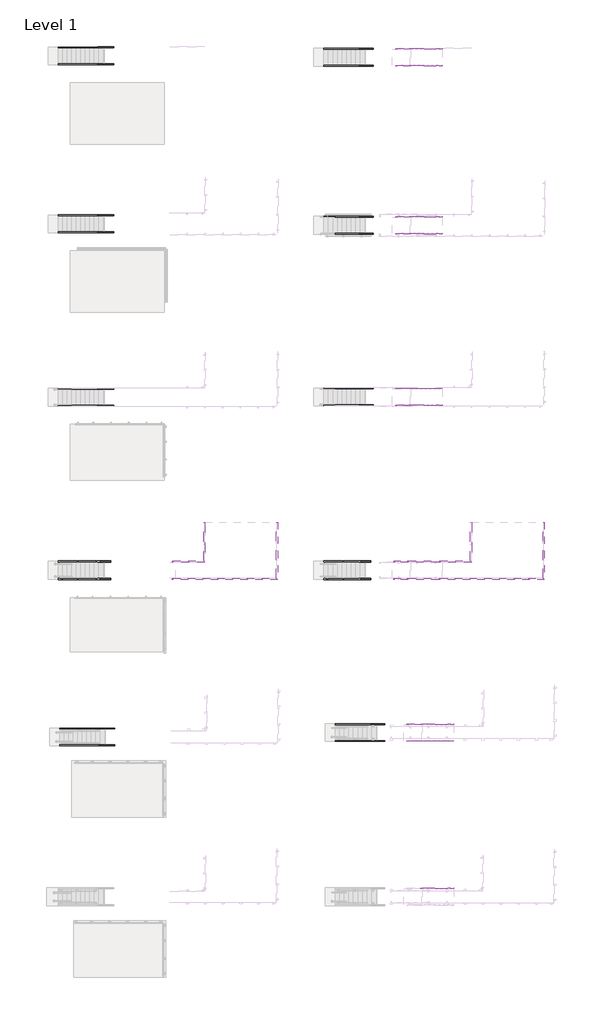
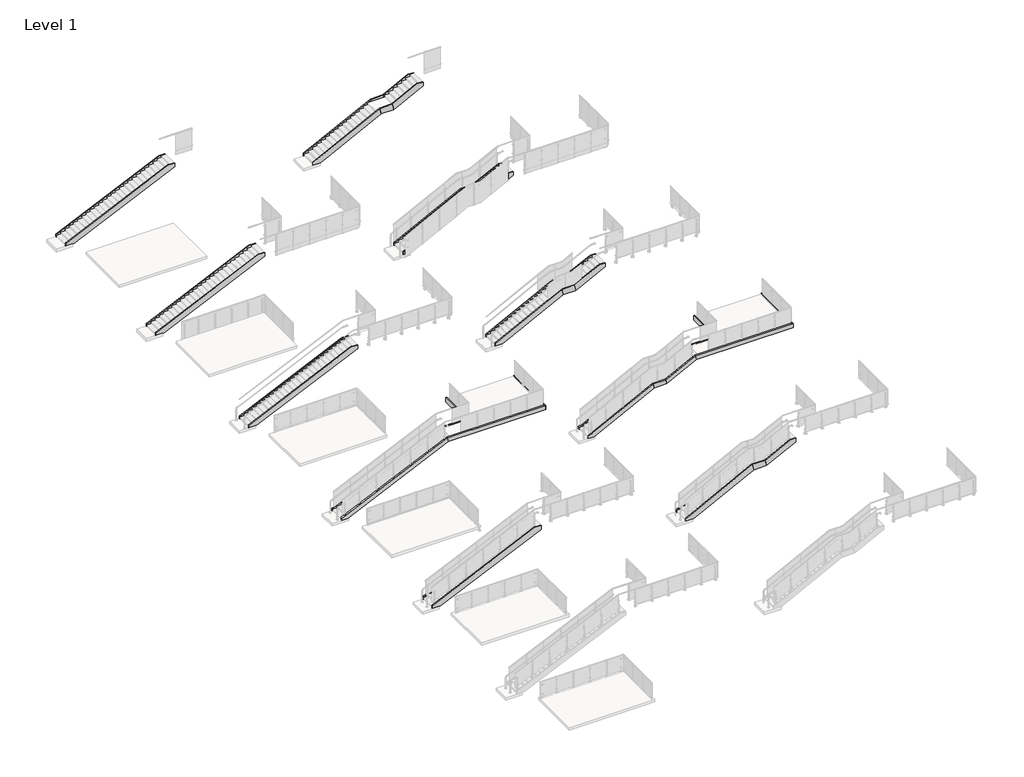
# One storey, part 37 of 37: 49 members.
"""IFC4 building model written with IfcOpenShell, lengths in millimetres."""

from ifc_helpers import new_model, si_unit, frame, origin, place, context, project, spatial, polyline, outline, extrude, faceted_brep, element, save

model = new_model("IFC4")

# Units and contexts
model_context = context("Model", 3, world=origin())
ifc_project = project(units=[si_unit("LENGTHUNIT", "METRE", prefix="MILLI")], contexts=[model_context])

# Site, building, storey
site = spatial("IfcSite", under=ifc_project)
building = spatial("IfcBuilding", under=site)
storey = spatial("IfcBuildingStorey", under=building, Name="Level 1", Elevation=0.0)

# Members
placement = place(None, origin())
element("IfcMember", 1, ObjectType="Stringer - Paint - 2\" Width", at=placement, inside=storey, context=model_context, shape_type="SweptSolid", body=[
    extrude(outline(polyline([(175.2989155, 2021.7373344), (0.0, 2021.7373344), (0.0, 2489.2459285), (1891.7478261, 6205.7421785), (2260.0478261, 6117.4002983), (175.2989155, 2021.7373344)])), frame((0.0, 4607.959649, 0.0), z_axis=(0.0, 1.0, 0.0), x_axis=(0.0, 0.0, 1.0)), (0.0, 0.0, 1.0), 50.8),
])
element("IfcMember", 2, ObjectType="Stringer - Paint - 2\" Width", at=placement, inside=storey, context=model_context, shape_type="SweptSolid", body=[
    extrude(outline(polyline([(175.2989155, 2021.7373344), (0.0, 2021.7373344), (0.0, 2489.2459285), (1891.7478261, 6205.7421785), (2260.0478261, 6117.4002983), (175.2989155, 2021.7373344)])), frame((0.0, 3642.759649, 0.0), z_axis=(0.0, 1.0, 0.0), x_axis=(0.0, 0.0, 1.0)), (0.0, 0.0, 1.0), 50.8),
])
element("IfcMember", 3, ObjectType="Stringer - Paint - 2\" Width", at=placement, inside=storey, context=model_context, shape_type="SweptSolid", body=[
    extrude(outline(polyline([(2260.0478261, 6898.4502983), (1891.7478261, 6986.7921785), (2810.0316806, 8790.8373344), (3048.0, 8790.8373344), (3048.0, 8446.4480067), (2260.0478261, 6898.4502983)])), frame((0.0, 4607.959649, 0.0), z_axis=(0.0, 1.0, 0.0), x_axis=(0.0, 0.0, 1.0)), (0.0, 0.0, 1.0), 50.8),
])
element("IfcMember", 4, ObjectType="Stringer - Paint - 2\" Width", at=placement, inside=storey, context=model_context, shape_type="SweptSolid", body=[
    extrude(outline(polyline([(2260.0478261, 6898.4502983), (1891.7478261, 6986.7921785), (2810.0316806, 8790.8373344), (3048.0, 8790.8373344), (3048.0, 8446.4480067), (2260.0478261, 6898.4502983)])), frame((0.0, 3642.759649, 0.0), z_axis=(0.0, 1.0, 0.0), x_axis=(0.0, 0.0, 1.0)), (0.0, 0.0, 1.0), 50.8),
])
element("IfcMember", 5, ObjectType="Stringer - Paint - 2\" Width", at=placement, inside=storey, context=model_context, shape_type="SweptSolid", body=[
    extrude(outline(polyline([(171.9353423, -13726.4963306), (0.0, -13726.4963306), (0.0, -13214.8530354), (2815.3467396, -7023.4363306), (3048.0, -7023.4363306), (3048.0, -7401.5508043), (171.9353423, -13726.4963306)])), frame((0.0, 4353.4965519, 0.0), z_axis=(0.0, 1.0, 0.0), x_axis=(0.0, 0.0, 1.0)), (0.0, 0.0, 1.0), 50.8),
])
element("IfcMember", 6, ObjectType="Stringer - Paint - 2\" Width", at=placement, inside=storey, context=model_context, shape_type="SweptSolid", body=[
    extrude(outline(polyline([(171.9353423, -13726.4963306), (0.0, -13726.4963306), (0.0, -13214.8530354), (2815.3467396, -7023.4363306), (3048.0, -7023.4363306), (3048.0, -7401.5508043), (171.9353423, -13726.4963306)])), frame((0.0, 3388.2965519, 0.0), z_axis=(0.0, 1.0, 0.0), x_axis=(0.0, 0.0, 1.0)), (0.0, 0.0, 1.0), 50.8),
])
element("IfcMember", 7, ObjectType="Stringer - Paint - 2\" Width", at=placement, inside=storey, context=model_context, shape_type="SweptSolid", body=[
    extrude(outline(polyline([(1891.7478261, 6986.7921785), (2260.0478261, 6898.4502983), (2260.0478261, 6117.4002983), (1891.7478261, 6205.7421785), (1891.7478261, 6986.7921785)])), frame((0.0, 4607.959649, 0.0), z_axis=(0.0, 1.0, 0.0), x_axis=(0.0, 0.0, 1.0)), (0.0, 0.0, 1.0), 50.8),
])
element("IfcMember", 8, ObjectType="Stringer - Paint - 2\" Width", at=placement, inside=storey, context=model_context, shape_type="SweptSolid", body=[
    extrude(outline(polyline([(2260.0478261, 6117.4002983), (1891.7478261, 6205.7421785), (1891.7478261, 6986.7921785), (2260.0478261, 6898.4502983), (2260.0478261, 6117.4002983)])), frame((0.0, 3642.759649, 0.0), z_axis=(0.0, 1.0, 0.0), x_axis=(0.0, 0.0, 1.0)), (0.0, 0.0, 1.0), 50.8),
])
element("IfcMember", 9, ObjectType="Stringer - Paint - 2\" Width", at=placement, inside=storey, context=model_context, shape_type="SweptSolid", body=[
    extrude(outline(polyline([(132.5471326, 1371.7221922), (0.0, 1371.7221922), (0.0, 1699.248386), (1891.7478261, 5415.744636), (2158.4478261, 5351.7729297), (132.5471326, 1371.7221922)])), frame((0.0, 13883.1406645, 0.0), z_axis=(0.0, 1.0, 0.0), x_axis=(0.0, 0.0, 1.0)), (0.0, 0.0, 1.0), 76.2),
])
element("IfcMember", 10, ObjectType="Stringer - Paint - 2\" Width", at=placement, inside=storey, context=model_context, shape_type="SweptSolid", body=[
    extrude(outline(polyline([(132.5471326, 1371.7221922), (0.0, 1371.7221922), (0.0, 1699.248386), (1891.7478261, 5415.744636), (2158.4478261, 5351.7729297), (132.5471326, 1371.7221922)])), frame((0.0, 12892.5406645, 0.0), z_axis=(0.0, 1.0, 0.0), x_axis=(0.0, 0.0, 1.0)), (0.0, 0.0, 1.0), 76.2),
])
element("IfcMember", 11, ObjectType="Stringer - Paint - 2\" Width", at=placement, inside=storey, context=model_context, shape_type="SweptSolid", body=[
    extrude(outline(polyline([(1891.7478261, 6196.794636), (2158.4478261, 6132.8229297), (2158.4478261, 5351.7729297), (1891.7478261, 5415.744636), (1891.7478261, 6196.794636)])), frame((0.0, 13883.1406645, 0.0), z_axis=(0.0, 1.0, 0.0), x_axis=(0.0, 0.0, 1.0)), (0.0, 0.0, 1.0), 76.2),
])
element("IfcMember", 12, ObjectType="Stringer - Paint - 2\" Width", at=placement, inside=storey, context=model_context, shape_type="SweptSolid", body=[
    extrude(outline(polyline([(2158.4478261, 5351.7729297), (1891.7478261, 5415.744636), (1891.7478261, 6196.794636), (2158.4478261, 6132.8229297), (2158.4478261, 5351.7729297)])), frame((0.0, 12892.5406645, 0.0), z_axis=(0.0, 1.0, 0.0), x_axis=(0.0, 0.0, 1.0)), (0.0, 0.0, 1.0), 76.2),
])
element("IfcMember", 13, ObjectType="Stringer - Paint - 2\" Width", at=placement, inside=storey, context=model_context, shape_type="SweptSolid", body=[
    extrude(outline(polyline([(175.2989155, 1371.7221922), (0.0, 1371.7221922), (0.0, 1839.2307863), (1891.7478261, 5555.7270363), (2260.0478261, 5467.3851562), (175.2989155, 1371.7221922)])), frame((0.0, 23789.1406645, 0.0), z_axis=(0.0, 1.0, 0.0), x_axis=(0.0, 0.0, 1.0)), (0.0, 0.0, 1.0), 50.8),
])
element("IfcMember", 14, ObjectType="Stringer - Paint - 2\" Width", at=placement, inside=storey, context=model_context, shape_type="SweptSolid", body=[
    extrude(outline(polyline([(175.2989155, 1371.7221922), (0.0, 1371.7221922), (0.0, 1839.2307863), (1891.7478261, 5555.7270363), (2260.0478261, 5467.3851562), (175.2989155, 1371.7221922)])), frame((0.0, 22823.9406645, 0.0), z_axis=(0.0, 1.0, 0.0), x_axis=(0.0, 0.0, 1.0)), (0.0, 0.0, 1.0), 50.8),
])
element("IfcMember", 15, ObjectType="Stringer - Paint - 2\" Width", at=placement, inside=storey, context=model_context, shape_type="SweptSolid", body=[
    extrude(outline(polyline([(2260.0478261, 6248.4351562), (1891.7478261, 6336.7770363), (2810.0316806, 8140.8221922), (3048.0, 8140.8221922), (3048.0, 7796.4328645), (2260.0478261, 6248.4351562)])), frame((0.0, 23789.1406645, 0.0), z_axis=(0.0, 1.0, 0.0), x_axis=(0.0, 0.0, 1.0)), (0.0, 0.0, 1.0), 50.8),
])
element("IfcMember", 16, ObjectType="Stringer - Paint - 2\" Width", at=placement, inside=storey, context=model_context, shape_type="SweptSolid", body=[
    extrude(outline(polyline([(2260.0478261, 6248.4351562), (1891.7478261, 6336.7770363), (2810.0316806, 8140.8221922), (3048.0, 8140.8221922), (3048.0, 7796.4328645), (2260.0478261, 6248.4351562)])), frame((0.0, 22823.9406645, 0.0), z_axis=(0.0, 1.0, 0.0), x_axis=(0.0, 0.0, 1.0)), (0.0, 0.0, 1.0), 50.8),
])
element("IfcMember", 17, ObjectType="Stringer - Paint - 2\" Width", at=placement, inside=storey, context=model_context, shape_type="SweptSolid", body=[
    extrude(outline(polyline([(175.2989155, 1371.7221922), (0.0, 1371.7221922), (0.0, 1839.2307863), (1891.7478261, 5555.7270363), (2260.0478261, 5467.3851562), (175.2989155, 1371.7221922)])), frame((0.0, 33593.5406645, 0.0), z_axis=(0.0, 1.0, 0.0), x_axis=(0.0, 0.0, 1.0)), (0.0, 0.0, 1.0), 50.8),
])
element("IfcMember", 18, ObjectType="Stringer - Paint - 2\" Width", at=placement, inside=storey, context=model_context, shape_type="SweptSolid", body=[
    extrude(outline(polyline([(175.2989155, 1371.7221922), (0.0, 1371.7221922), (0.0, 1839.2307863), (1891.7478261, 5555.7270363), (2260.0478261, 5467.3851562), (175.2989155, 1371.7221922)])), frame((0.0, 32628.3406645, 0.0), z_axis=(0.0, 1.0, 0.0), x_axis=(0.0, 0.0, 1.0)), (0.0, 0.0, 1.0), 50.8),
])
element("IfcMember", 19, ObjectType="Stringer - Paint - 2\" Width", at=placement, inside=storey, context=model_context, shape_type="SweptSolid", body=[
    extrude(outline(polyline([(2260.0478261, 6248.4351562), (1891.7478261, 6336.7770363), (2810.0316806, 8140.8221922), (3048.0, 8140.8221922), (3048.0, 7796.4328645), (2260.0478261, 6248.4351562)])), frame((0.0, 33593.5406645, 0.0), z_axis=(0.0, 1.0, 0.0), x_axis=(0.0, 0.0, 1.0)), (0.0, 0.0, 1.0), 50.8),
])
element("IfcMember", 20, ObjectType="Stringer - Paint - 2\" Width", at=placement, inside=storey, context=model_context, shape_type="SweptSolid", body=[
    extrude(outline(polyline([(2260.0478261, 6248.4351562), (1891.7478261, 6336.7770363), (2810.0316806, 8140.8221922), (3048.0, 8140.8221922), (3048.0, 7796.4328645), (2260.0478261, 6248.4351562)])), frame((0.0, 32628.3406645, 0.0), z_axis=(0.0, 1.0, 0.0), x_axis=(0.0, 0.0, 1.0)), (0.0, 0.0, 1.0), 50.8),
])
element("IfcMember", 21, ObjectType="Stringer - Paint - 2\" Width", at=placement, inside=storey, context=model_context, shape_type="SweptSolid", body=[
    extrude(outline(polyline([(171.9353423, -13801.737319), (0.0, -13801.737319), (0.0, -13290.0940239), (2815.3467396, -7098.677319), (3048.0, -7098.677319), (3048.0, -7476.7917927), (171.9353423, -13801.737319)])), frame((0.0, 33676.5216942, 0.0), z_axis=(0.0, 1.0, 0.0), x_axis=(0.0, 0.0, 1.0)), (0.0, 0.0, 1.0), 50.8),
])
element("IfcMember", 22, ObjectType="Stringer - Paint - 2\" Width", at=placement, inside=storey, context=model_context, shape_type="SweptSolid", body=[
    extrude(outline(polyline([(171.9353423, -13801.737319), (0.0, -13801.737319), (0.0, -13290.0940239), (2815.3467396, -7098.677319), (3048.0, -7098.677319), (3048.0, -7476.7917927), (171.9353423, -13801.737319)])), frame((0.0, 32711.3216942, 0.0), z_axis=(0.0, 1.0, 0.0), x_axis=(0.0, 0.0, 1.0)), (0.0, 0.0, 1.0), 50.8),
])
element("IfcMember", 23, ObjectType="Stringer - Paint - 2\" Width", at=placement, inside=storey, context=model_context, shape_type="SweptSolid", body=[
    extrude(outline(polyline([(1891.7478261, 6336.7770363), (2260.0478261, 6248.4351562), (2260.0478261, 5467.3851562), (1891.7478261, 5555.7270363), (1891.7478261, 6336.7770363)])), frame((0.0, 33593.5406645, 0.0), z_axis=(0.0, 1.0, 0.0), x_axis=(0.0, 0.0, 1.0)), (0.0, 0.0, 1.0), 50.8),
])
element("IfcMember", 24, ObjectType="Stringer - Paint - 2\" Width", at=placement, inside=storey, context=model_context, shape_type="SweptSolid", body=[
    extrude(outline(polyline([(2260.0478261, 5467.3851562), (1891.7478261, 5555.7270363), (1891.7478261, 6336.7770363), (2260.0478261, 6248.4351562), (2260.0478261, 5467.3851562)])), frame((0.0, 32628.3406645, 0.0), z_axis=(0.0, 1.0, 0.0), x_axis=(0.0, 0.0, 1.0)), (0.0, 0.0, 1.0), 50.8),
])
element("IfcMember", 25, ObjectType="Stringer - Paint - 2\" Width", at=placement, inside=storey, context=model_context, shape_type="SweptSolid", body=[
    extrude(outline(polyline([(171.9353423, -13801.737319), (0.0, -13801.737319), (0.0, -13290.0940239), (2815.3467396, -7098.677319), (3048.0, -7098.677319), (3048.0, -7476.7917927), (171.9353423, -13801.737319)])), frame((0.0, 23770.5216942, 0.0), z_axis=(0.0, 1.0, 0.0), x_axis=(0.0, 0.0, 1.0)), (0.0, 0.0, 1.0), 50.8),
])
element("IfcMember", 26, ObjectType="Stringer - Paint - 2\" Width", at=placement, inside=storey, context=model_context, shape_type="SweptSolid", body=[
    extrude(outline(polyline([(171.9353423, -13801.737319), (0.0, -13801.737319), (0.0, -13290.0940239), (2815.3467396, -7098.677319), (3048.0, -7098.677319), (3048.0, -7476.7917927), (171.9353423, -13801.737319)])), frame((0.0, 22805.3216942, 0.0), z_axis=(0.0, 1.0, 0.0), x_axis=(0.0, 0.0, 1.0)), (0.0, 0.0, 1.0), 50.8),
])
element("IfcMember", 27, ObjectType="Stringer - Paint - 2\" Width", at=placement, inside=storey, context=model_context, shape_type="SweptSolid", body=[
    extrude(outline(polyline([(175.2989155, 1371.7221922), (0.0, 1371.7221922), (0.0, 1839.2307863), (1891.7478261, 5555.7270363), (2260.0478261, 5467.3851562), (175.2989155, 1371.7221922)])), frame((0.0, 43194.7406645, 0.0), z_axis=(0.0, 1.0, 0.0), x_axis=(0.0, 0.0, 1.0)), (0.0, 0.0, 1.0), 50.8),
])
element("IfcMember", 28, ObjectType="Stringer - Paint - 2\" Width", at=placement, inside=storey, context=model_context, shape_type="SweptSolid", body=[
    extrude(outline(polyline([(175.2989155, 1371.7221922), (0.0, 1371.7221922), (0.0, 1839.2307863), (1891.7478261, 5555.7270363), (2260.0478261, 5467.3851562), (175.2989155, 1371.7221922)])), frame((0.0, 42229.5406645, 0.0), z_axis=(0.0, 1.0, 0.0), x_axis=(0.0, 0.0, 1.0)), (0.0, 0.0, 1.0), 50.8),
])
element("IfcMember", 29, ObjectType="Stringer - Paint - 2\" Width", at=placement, inside=storey, context=model_context, shape_type="SweptSolid", body=[
    extrude(outline(polyline([(2260.0478261, 6248.4351562), (1891.7478261, 6336.7770363), (2810.0316806, 8140.8221922), (3048.0, 8140.8221922), (3048.0, 7796.4328645), (2260.0478261, 6248.4351562)])), frame((0.0, 43194.7406645, 0.0), z_axis=(0.0, 1.0, 0.0), x_axis=(0.0, 0.0, 1.0)), (0.0, 0.0, 1.0), 50.8),
])
element("IfcMember", 30, ObjectType="Stringer - Paint - 2\" Width", at=placement, inside=storey, context=model_context, shape_type="SweptSolid", body=[
    extrude(outline(polyline([(2260.0478261, 6248.4351562), (1891.7478261, 6336.7770363), (2810.0316806, 8140.8221922), (3048.0, 8140.8221922), (3048.0, 7796.4328645), (2260.0478261, 6248.4351562)])), frame((0.0, 42229.5406645, 0.0), z_axis=(0.0, 1.0, 0.0), x_axis=(0.0, 0.0, 1.0)), (0.0, 0.0, 1.0), 50.8),
])
element("IfcMember", 31, ObjectType="Stringer - Paint - 2\" Width", at=placement, inside=storey, context=model_context, shape_type="SweptSolid", body=[
    extrude(outline(polyline([(171.9353423, -13801.737319), (0.0, -13801.737319), (0.0, -13290.0940239), (2815.3467396, -7098.677319), (3048.0, -7098.677319), (3048.0, -7476.7917927), (171.9353423, -13801.737319)])), frame((0.0, 43277.7216942, 0.0), z_axis=(0.0, 1.0, 0.0), x_axis=(0.0, 0.0, 1.0)), (0.0, 0.0, 1.0), 50.8),
])
element("IfcMember", 32, ObjectType="Stringer - Paint - 2\" Width", at=placement, inside=storey, context=model_context, shape_type="SweptSolid", body=[
    extrude(outline(polyline([(171.9353423, -13801.737319), (0.0, -13801.737319), (0.0, -13290.0940239), (2815.3467396, -7098.677319), (3048.0, -7098.677319), (3048.0, -7476.7917927), (171.9353423, -13801.737319)])), frame((0.0, 42312.5216942, 0.0), z_axis=(0.0, 1.0, 0.0), x_axis=(0.0, 0.0, 1.0)), (0.0, 0.0, 1.0), 50.8),
])
element("IfcMember", 33, ObjectType="Stringer - Paint - 2\" Width", at=placement, inside=storey, context=model_context, shape_type="SweptSolid", body=[
    extrude(outline(polyline([(1891.7478261, 6336.7770363), (2260.0478261, 6248.4351562), (2260.0478261, 5467.3851562), (1891.7478261, 5555.7270363), (1891.7478261, 6336.7770363)])), frame((0.0, 43194.7406645, 0.0), z_axis=(0.0, 1.0, 0.0), x_axis=(0.0, 0.0, 1.0)), (0.0, 0.0, 1.0), 50.8),
])
element("IfcMember", 34, ObjectType="Stringer - Paint - 2\" Width", at=placement, inside=storey, context=model_context, shape_type="SweptSolid", body=[
    extrude(outline(polyline([(2260.0478261, 5467.3851562), (1891.7478261, 5555.7270363), (1891.7478261, 6336.7770363), (2260.0478261, 6248.4351562), (2260.0478261, 5467.3851562)])), frame((0.0, 42229.5406645, 0.0), z_axis=(0.0, 1.0, 0.0), x_axis=(0.0, 0.0, 1.0)), (0.0, 0.0, 1.0), 50.8),
])
element("IfcMember", 35, ObjectType="Stringer - Paint - 2\" Width", at=placement, inside=storey, context=model_context, shape_type="SweptSolid", body=[
    extrude(outline(polyline([(2260.0478261, 6898.4502983), (1891.7478261, 6986.7921785), (2810.0316806, 8790.8373344), (3048.0, 8790.8373344), (3048.0, 8446.4480067), (2260.0478261, 6898.4502983)])), frame((0.0, -4784.1653686, 0.0), z_axis=(0.0, 1.0, 0.0), x_axis=(0.0, 0.0, 1.0)), (0.0, 0.0, 1.0), 50.8),
])
element("IfcMember", 36, ObjectType="Stringer - Paint - 2\" Width 2", at=placement, inside=storey, context=model_context, shape_type="SweptSolid", body=[
    extrude(outline(polyline([(2260.0478261, 5467.3851562), (1891.7478261, 5555.7270363), (1891.7478261, 6336.7770363), (2260.0478261, 6248.4351562), (2260.0478261, 5467.3851562)])), frame((0.0, 22823.9406645, 0.0), z_axis=(0.0, 1.0, 0.0), x_axis=(0.0, 0.0, 1.0)), (0.0, 0.0, 1.0), 50.8),
])
element("IfcMember", 37, ObjectType="Stringer - Paint - 2\" Width 2", at=placement, inside=storey, context=model_context, shape_type="SweptSolid", body=[
    extrude(outline(polyline([(1891.7478261, 6336.7770363), (2260.0478261, 6248.4351562), (2260.0478261, 5467.3851562), (1891.7478261, 5555.7270363), (1891.7478261, 6336.7770363)])), frame((0.0, 23789.1406645, 0.0), z_axis=(0.0, 1.0, 0.0), x_axis=(0.0, 0.0, 1.0)), (0.0, 0.0, 1.0), 50.8),
])
element("IfcMember", 38, ObjectType="Stringer - Paint - 3\" Width", at=placement, inside=storey, context=model_context, shape_type="SweptSolid", body=[
    extrude(outline(polyline([(-5504.827319, 16169.1406645), (-5428.627319, 16169.1406645), (-5428.627319, 13883.1406645), (-5504.827319, 13959.3406645), (-5504.827319, 16169.1406645)])), frame((0.0, 0.0, 2819.4), z_axis=(0.0, 0.0, 1.0), x_axis=(1.0, 0.0, 0.0)), (0.0, 0.0, 1.0), 266.7),
])
element("IfcMember", 39, ObjectType="Stringer - Paint - 3\" Width", at=placement, inside=storey, context=model_context, shape_type="Brep", body=[
    faceted_brep([(-5428.627319, 13883.1406645, 3086.1), (-5504.827319, 13959.3406645, 3086.1), (-7300.9596356, 13959.3406645, 3086.1), (-7300.9596356, 13883.1406645, 3086.1), (-5428.627319, 13883.1406645, 2819.4), (-7243.1700357, 13883.1406645, 2819.4), (-5504.827319, 13959.3406645, 2819.4), (-7243.1700357, 13959.3406645, 2819.4)], [[[0, 1, 2, 3]], [[4, 0, 3, 5]], [[6, 4, 5, 7]], [[1, 6, 7, 2]], [[1, 0, 4, 6]], [[2, 7, 5, 3]]]),
])
element("IfcMember", 40, ObjectType="Stringer - Paint - 3\" Width", at=placement, inside=storey, context=model_context, shape_type="Brep", body=[
    faceted_brep([(-7300.9596356, 12968.7406645, 3086.1), (-7300.9596356, 12892.5406645, 3086.1), (-1261.439819, 12892.5406645, 3086.1), (-1337.639819, 12968.7406645, 3086.1), (-7243.1700357, 12968.7406645, 2819.4), (-1337.639819, 12968.7406645, 2819.4), (-7243.1700357, 12892.5406645, 2819.4), (-1261.439819, 12892.5406645, 2819.4)], [[[0, 1, 2, 3]], [[4, 0, 3, 5]], [[6, 4, 5, 7]], [[1, 6, 7, 2]], [[1, 0, 4, 6]], [[2, 7, 5, 3]]]),
])
element("IfcMember", 41, ObjectType="Stringer - Paint - 3\" Width", at=placement, inside=storey, context=model_context, shape_type="SweptSolid", body=[
    extrude(outline(polyline([(-1261.439819, 12892.5406645), (-1337.639819, 12968.7406645), (-1337.639819, 16169.1406645), (-1261.439819, 16169.1406645), (-1261.439819, 12892.5406645)])), frame((0.0, 0.0, 2819.4), z_axis=(0.0, 0.0, 1.0), x_axis=(1.0, 0.0, 0.0)), (0.0, 0.0, 1.0), 266.7),
])
element("IfcMember", 42, ObjectType="Stringer - Paint - 3\" Width", at=placement, inside=storey, context=model_context, shape_type="SweptSolid", body=[
    extrude(outline(polyline([(130.0813489, -13801.737319), (0.0, -13801.737319), (0.0, -13443.5005357), (2819.4, -7243.1700357), (3086.1, -7300.9596356), (130.0813489, -13801.737319)])), frame((0.0, 12892.5406645, 0.0), z_axis=(0.0, 1.0, 0.0), x_axis=(0.0, 0.0, 1.0)), (0.0, 0.0, 1.0), 76.2),
])
element("IfcMember", 43, ObjectType="Stringer - Paint - 3\" Width", at=placement, inside=storey, context=model_context, shape_type="SweptSolid", body=[
    extrude(outline(polyline([(130.0813489, -13801.737319), (0.0, -13801.737319), (0.0, -13443.5005357), (2819.4, -7243.1700357), (3086.1, -7300.9596356), (130.0813489, -13801.737319)])), frame((0.0, 13883.1406645, 0.0), z_axis=(0.0, 1.0, 0.0), x_axis=(0.0, 0.0, 1.0)), (0.0, 0.0, 1.0), 76.2),
])
element("IfcMember", 44, ObjectType="Stringer - Paint - 3\" Width", at=placement, inside=storey, context=model_context, shape_type="SweptSolid", body=[
    extrude(outline(polyline([(9734.6721922, 16169.1406645), (9810.8721922, 16169.1406645), (9810.8721922, 13883.1406645), (9734.6721922, 13959.3406645), (9734.6721922, 16169.1406645)])), frame((0.0, 0.0, 2819.4), z_axis=(0.0, 0.0, 1.0), x_axis=(1.0, 0.0, 0.0)), (0.0, 0.0, 1.0), 266.7),
])
element("IfcMember", 45, ObjectType="Stringer - Paint - 3\" Width", at=placement, inside=storey, context=model_context, shape_type="Brep", body=[
    faceted_brep([(9810.8721922, 13883.1406645, 3086.1), (9734.6721922, 13959.3406645, 3086.1), (7955.2729297, 13959.3406645, 3086.1), (7955.2729297, 13883.1406645, 3086.1), (9810.8721922, 13883.1406645, 2819.4), (8019.244636, 13883.1406645, 2819.4), (9734.6721922, 13959.3406645, 2819.4), (8019.244636, 13959.3406645, 2819.4)], [[[0, 1, 2, 3]], [[4, 0, 3, 5]], [[6, 4, 5, 7]], [[1, 6, 7, 2]], [[1, 0, 4, 6]], [[2, 7, 5, 3]]]),
])
element("IfcMember", 46, ObjectType="Stringer - Paint - 3\" Width", at=placement, inside=storey, context=model_context, shape_type="Brep", body=[
    faceted_brep([(7955.2729297, 12968.7406645, 3086.1), (7955.2729297, 12892.5406645, 3086.1), (13978.0596922, 12892.5406645, 3086.1), (13901.8596922, 12968.7406645, 3086.1), (8019.244636, 12968.7406645, 2819.4), (13901.8596922, 12968.7406645, 2819.4), (8019.244636, 12892.5406645, 2819.4), (13978.0596922, 12892.5406645, 2819.4)], [[[0, 1, 2, 3]], [[4, 0, 3, 5]], [[6, 4, 5, 7]], [[1, 6, 7, 2]], [[1, 0, 4, 6]], [[2, 7, 5, 3]]]),
])
element("IfcMember", 47, ObjectType="Stringer - Paint - 3\" Width", at=placement, inside=storey, context=model_context, shape_type="SweptSolid", body=[
    extrude(outline(polyline([(13978.0596922, 12892.5406645), (13901.8596922, 12968.7406645), (13901.8596922, 16169.1406645), (13978.0596922, 16169.1406645), (13978.0596922, 12892.5406645)])), frame((0.0, 0.0, 2819.4), z_axis=(0.0, 0.0, 1.0), x_axis=(1.0, 0.0, 0.0)), (0.0, 0.0, 1.0), 266.7),
])
element("IfcMember", 48, ObjectType="Stringer - Paint - 3\" Width", at=placement, inside=storey, context=model_context, shape_type="SweptSolid", body=[
    extrude(outline(polyline([(2158.4478261, 6132.8229297), (1891.7478261, 6196.794636), (2819.4, 8019.244636), (3086.1, 7955.2729297), (2158.4478261, 6132.8229297)])), frame((0.0, 12892.5406645, 0.0), z_axis=(0.0, 1.0, 0.0), x_axis=(0.0, 0.0, 1.0)), (0.0, 0.0, 1.0), 76.2),
])
element("IfcMember", 49, ObjectType="Stringer - Paint - 3\" Width", at=placement, inside=storey, context=model_context, shape_type="SweptSolid", body=[
    extrude(outline(polyline([(2158.4478261, 6132.8229297), (1891.7478261, 6196.794636), (2819.4, 8019.244636), (3086.1, 7955.2729297), (2158.4478261, 6132.8229297)])), frame((0.0, 13883.1406645, 0.0), z_axis=(0.0, 1.0, 0.0), x_axis=(0.0, 0.0, 1.0)), (0.0, 0.0, 1.0), 76.2),
])

save(model, "model.ifc")
